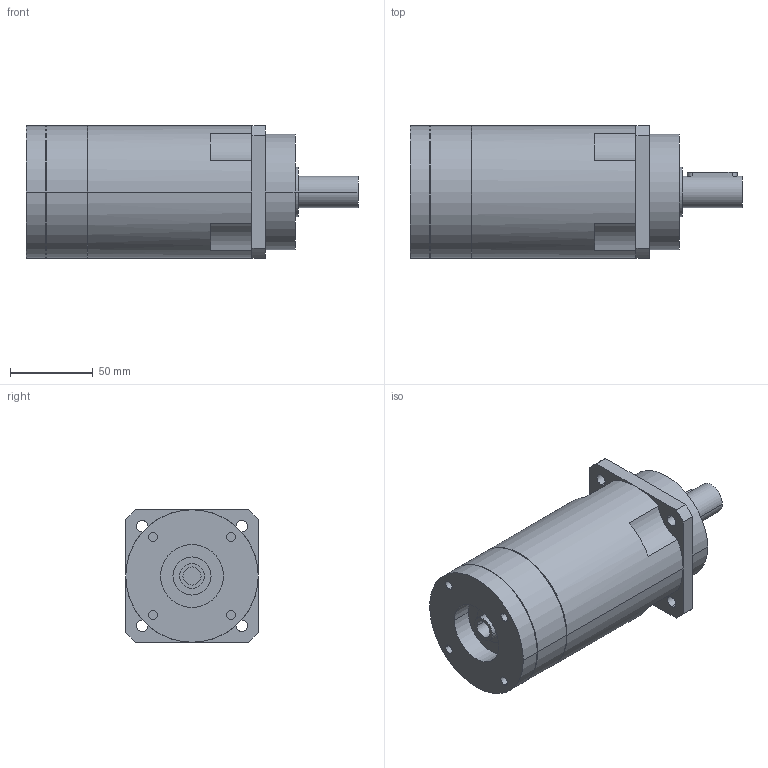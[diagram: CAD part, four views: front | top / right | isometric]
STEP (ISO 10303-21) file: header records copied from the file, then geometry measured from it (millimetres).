
FILE_DESCRIPTION(('CoCreate Modeling STEP Export'),'2;1');
FILE_NAME('GPR100_ig-48-64-80-100-120-144-180-216_19_B5_11_P01.stp','2014-08-26T11:53:18',(''),(''),'CoCreate Modeling STEP processor for AP214 (Solid Model)','CoCreate Modeling 16.00C 25-Feb-2009 (C) Parametric Technology GmbH','');
FILE_SCHEMA(('AUTOMOTIVE_DESIGN { 1 0 10303 214 1 1 1 1 }'));
Length unit declared in the file: millimetre
Products named in the file (2): GPR100_ig-48-64-80-100-120-144-180-216_19_B5_11_P01
Assembly tree (1 placements, depth 2):
  GPR100_ig-48-64-80-100-120-144-180-216_19_B5_11_P01
    GPR100_ig-48-64-80-100-120-144-180-216_19_B5_11_P01
Bounding box: 200.4 x 80 x 80 mm (x, y, z)
Volume: 790994.3 mm3; surface area: 61307.6 mm2
Topology: 1 solids, 1 shells, 96 faces, 250 edges, 172 vertices
Faces by surface type: cylinder 56, plane 34, cone 6
Entity records: 2609 total; most frequent: ORIENTED_EDGE 496, CARTESIAN_POINT 468, DIRECTION 376, EDGE_CURVE 248, VERTEX_POINT 172, AXIS2_PLACEMENT_3D 144, EDGE_LOOP 122, FACE_OUTER_BOUND 96
